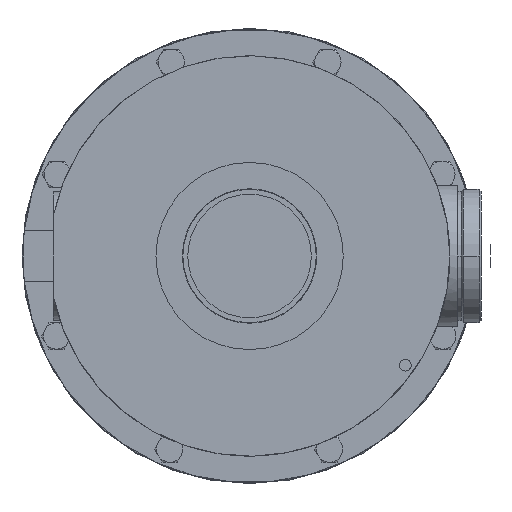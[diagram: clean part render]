
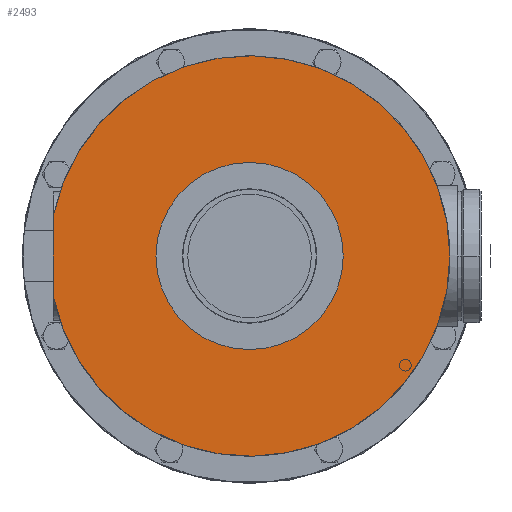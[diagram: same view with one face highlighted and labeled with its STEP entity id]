
A CAD part, front view. The second image highlights one B-rep face of the part: STEP entity #2493.
In plain terms, the highlighted planar face has unit normal (0, -1, 0).
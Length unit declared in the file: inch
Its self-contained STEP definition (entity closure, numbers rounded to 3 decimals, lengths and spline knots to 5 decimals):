
#11=CARTESIAN_POINT('',(0.,0.063,0.));
#12=DIRECTION('',(0.,-1.,0.));
#13=DIRECTION('',(-0.98,0.,-0.201));
#14=AXIS2_PLACEMENT_3D('',#11,#12,#13);
#1045=DIRECTION('',(0.,0.,-1.));
#1046=VECTOR('',#1045,1.28137);
#1047=CARTESIAN_POINT('',(-3.125,0.063,0.64068));
#1048=LINE('',#1047,#1046);
#1305=CARTESIAN_POINT('',(-3.125,0.063,0.64068));
#1307=VERTEX_POINT('',#1305);
#1308=CARTESIAN_POINT('',(-3.125,0.063,-0.64068));
#1309=VERTEX_POINT('',#1308);
#2483=CARTESIAN_POINT('',(0.,0.063,0.));
#2484=DIRECTION('',(0.,1.,0.));
#2485=DIRECTION('',(1.,0.,0.));
#2486=AXIS2_PLACEMENT_3D('',#2483,#2484,#2485);
#2487=PLANE('',#2486);
#2489=ORIENTED_EDGE('',*,*,#2488,.F.);
#2490=ORIENTED_EDGE('',*,*,#1338,.F.);
#2491=EDGE_LOOP('',(#2489,#2490));
#2492=FACE_OUTER_BOUND('',#2491,.F.);
#2493=ADVANCED_FACE('',(#2492),#2487,.F.);
#15=CIRCLE('',#14,3.19);
#1338=EDGE_CURVE('',#1309,#1307,#15,.T.);
#2488=EDGE_CURVE('',#1307,#1309,#1048,.T.);
